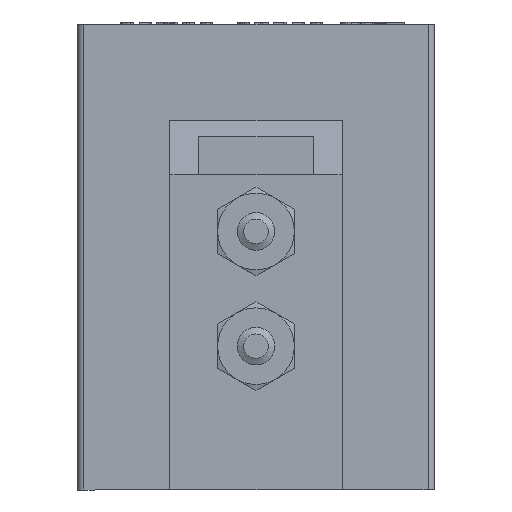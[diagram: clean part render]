
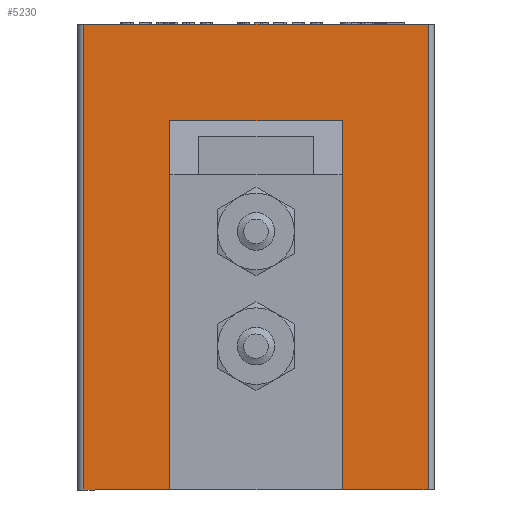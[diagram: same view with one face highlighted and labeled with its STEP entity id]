
A CAD part, front view. The second image highlights one B-rep face of the part: STEP entity #5230.
In plain terms, the highlighted planar face has unit normal (0, -1, 0).
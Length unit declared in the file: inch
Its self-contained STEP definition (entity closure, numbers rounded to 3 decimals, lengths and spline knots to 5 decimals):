
#5106=CARTESIAN_POINT('',(0.37533,-1.055,1.729));
#5107=VERTEX_POINT('',#5106);
#5114=CARTESIAN_POINT('',(-0.37533,-1.055,1.729));
#5115=VERTEX_POINT('',#5114);
#5116=CARTESIAN_POINT('',(-0.37533,-1.055,1.729));
#5117=DIRECTION('',(1.0,0.0,0.0));
#5118=VECTOR('',#5117,0.75067);
#5119=LINE('',#5116,#5118);
#5120=EDGE_CURVE('',#5115,#5107,#5119,.T.);
#5139=CARTESIAN_POINT('',(-0.37533,-1.055,0.119));
#5140=VERTEX_POINT('',#5139);
#5149=CARTESIAN_POINT('',(-0.37533,-1.055,0.119));
#5150=DIRECTION('',(0.0,0.0,1.0));
#5151=VECTOR('',#5150,1.61);
#5152=LINE('',#5149,#5151);
#5153=EDGE_CURVE('',#5140,#5115,#5152,.T.);
#5164=CARTESIAN_POINT('',(0.37533,-1.055,0.119));
#5165=VERTEX_POINT('',#5164);
#5172=CARTESIAN_POINT('',(0.37533,-1.055,1.729));
#5173=DIRECTION('',(0.0,0.0,-1.0));
#5174=VECTOR('',#5173,1.61);
#5175=LINE('',#5172,#5174);
#5176=EDGE_CURVE('',#5107,#5165,#5175,.T.);
#5182=CARTESIAN_POINT('',(-0.74998,-1.055,2.149));
#5183=DIRECTION('',(0.0,-1.0,0.0));
#5184=DIRECTION('',(0.0,0.0,1.0));
#5185=AXIS2_PLACEMENT_3D('',#5182,#5183,#5184);
#5186=PLANE('',#5185);
#5187=ORIENTED_EDGE('',*,*,#5153,.T.);
#5188=ORIENTED_EDGE('',*,*,#5120,.T.);
#5189=ORIENTED_EDGE('',*,*,#5176,.T.);
#5190=CARTESIAN_POINT('',(0.74998,-1.055,0.119));
#5191=VERTEX_POINT('',#5190);
#5192=CARTESIAN_POINT('',(0.37533,-1.055,0.119));
#5193=DIRECTION('',(1.0,0.0,0.0));
#5194=VECTOR('',#5193,0.37465);
#5195=LINE('',#5192,#5194);
#5196=EDGE_CURVE('',#5165,#5191,#5195,.T.);
#5197=ORIENTED_EDGE('',*,*,#5196,.T.);
#5198=CARTESIAN_POINT('',(0.74998,-1.055,2.149));
#5199=VERTEX_POINT('',#5198);
#5200=CARTESIAN_POINT('',(0.74998,-1.055,2.149));
#5201=DIRECTION('',(0.0,0.0,-1.0));
#5202=VECTOR('',#5201,2.03);
#5203=LINE('',#5200,#5202);
#5204=EDGE_CURVE('',#5199,#5191,#5203,.T.);
#5205=ORIENTED_EDGE('',*,*,#5204,.F.);
#5206=CARTESIAN_POINT('',(-0.74998,-1.055,2.149));
#5207=VERTEX_POINT('',#5206);
#5208=CARTESIAN_POINT('',(0.74998,-1.055,2.149));
#5209=DIRECTION('',(-1.0,0.0,0.0));
#5210=VECTOR('',#5209,1.49996);
#5211=LINE('',#5208,#5210);
#5212=EDGE_CURVE('',#5199,#5207,#5211,.T.);
#5213=ORIENTED_EDGE('',*,*,#5212,.T.);
#5214=CARTESIAN_POINT('',(-0.74998,-1.055,0.119));
#5215=VERTEX_POINT('',#5214);
#5216=CARTESIAN_POINT('',(-0.74998,-1.055,2.149));
#5217=DIRECTION('',(0.0,0.0,-1.0));
#5218=VECTOR('',#5217,2.03);
#5219=LINE('',#5216,#5218);
#5220=EDGE_CURVE('',#5207,#5215,#5219,.T.);
#5221=ORIENTED_EDGE('',*,*,#5220,.T.);
#5222=CARTESIAN_POINT('',(-0.74998,-1.055,0.119));
#5223=DIRECTION('',(1.0,0.0,0.0));
#5224=VECTOR('',#5223,0.37465);
#5225=LINE('',#5222,#5224);
#5226=EDGE_CURVE('',#5215,#5140,#5225,.T.);
#5227=ORIENTED_EDGE('',*,*,#5226,.T.);
#5228=EDGE_LOOP('',(#5187,#5188,#5189,#5197,#5205,#5213,#5221,#5227));
#5229=FACE_OUTER_BOUND('',#5228,.T.);
#5230=ADVANCED_FACE('',(#5229),#5186,.T.);
